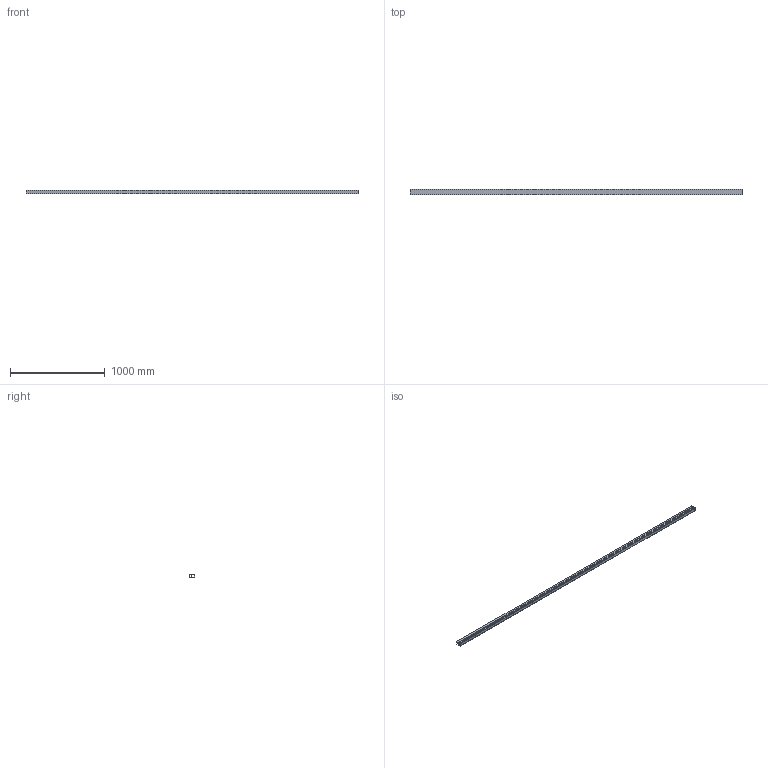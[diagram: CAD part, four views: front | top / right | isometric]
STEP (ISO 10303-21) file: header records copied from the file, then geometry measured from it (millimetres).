
FILE_DESCRIPTION(('STEP AP242'),'1');
FILE_NAME('OPO_65.081.33.stp','2026-01-30T20:50:11',(' '),(' '),'Spatial InterOp 3D',' ',' ');
FILE_SCHEMA(('AP242_MANAGED_MODEL_BASED_3D_ENGINEERING_MIM_LF {1 0 10303 442 1 1 4}'));
Length unit declared in the file: millimetre
Products named in the file (1): 1
Bounding box: 3500 x 53 x 33 mm (x, y, z)
Volume: 1560781.3 mm3; surface area: 1286829.5 mm2
Topology: 1 solids, 1 shells, 88 faces, 244 edges, 162 vertices
Faces by surface type: plane 68, cylinder 20
Entity records: 3516 total; most frequent: CARTESIAN_POINT 495, ORIENTED_EDGE 488, DIRECTION 462, EDGE_CURVE 244, LINE 204, VECTOR 204, VERTEX_POINT 162, AXIS2_PLACEMENT_3D 129
